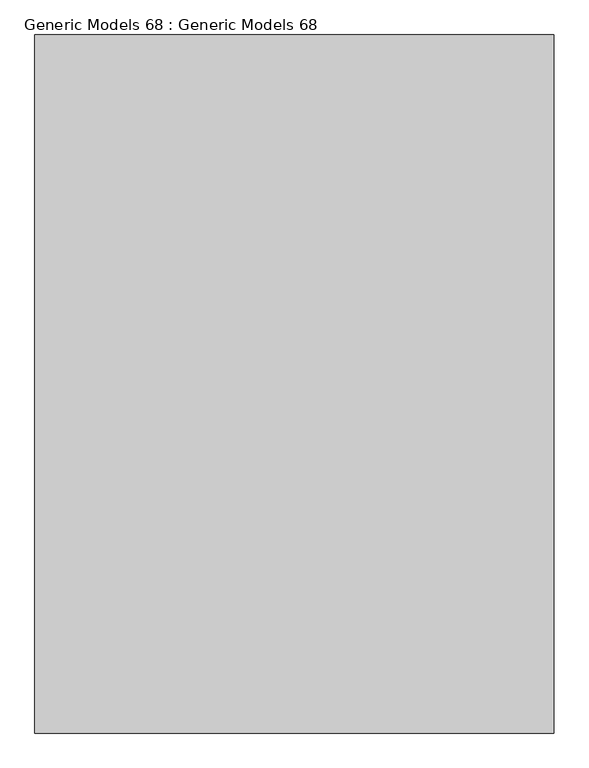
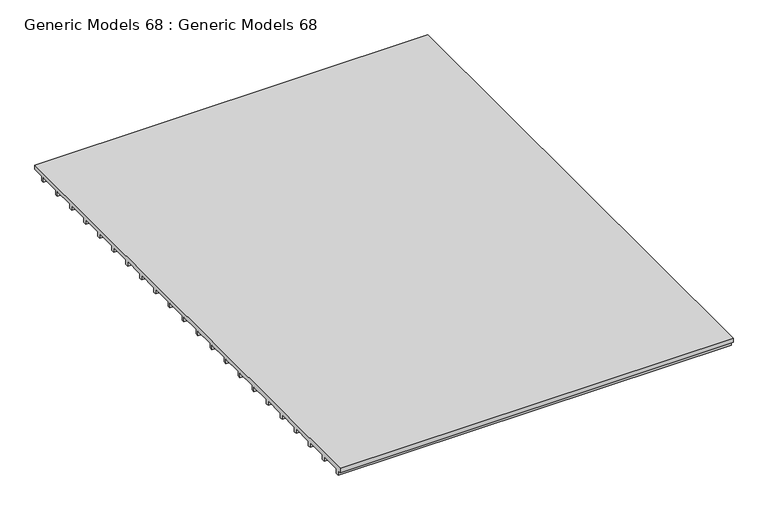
"""IFC4 building model written with IfcOpenShell, lengths in millimetres: proxy geometry, Generic Models 68 : Generic Models 68."""

from ifc_helpers import new_model, si_unit, frame, origin, place, context, project, spatial, polyline, outline, extrude, source, transform, mapped, element, save


def generic_models_68_generic_models_68_cb7e43ab(model_context):
    return source(origin(), model_context, "Body", "SweptSolid", [
        extrude(outline(polyline([(36355.969902, 48170.0), (36355.969902, 47960.8842923), (35815.9656332, 47960.8842923), (35815.9656332, 47740.8842923), (35675.9656332, 47740.8842923), (35675.9656332, 47960.8842923), (34695.9656332, 47960.8842923), (34695.9656332, 47740.8842923), (34555.9656332, 47740.8842923), (34555.9656332, 47960.8842923), (33575.9656332, 47960.8842923), (33575.9656332, 47740.8842923), (33435.9656332, 47740.8842923), (33435.9656332, 47960.8842923), (32455.9656332, 47960.8842923), (32455.9656332, 47740.8842923), (32315.9656332, 47740.8842923), (32315.9656332, 47960.8842923), (31335.9656332, 47960.8842923), (31335.9656332, 47740.8842923), (31195.9656332, 47740.8842923), (31195.9656332, 47960.8842923), (30215.9656332, 47960.8842923), (30215.9656332, 47740.8842923), (30075.9656332, 47740.8842923), (30075.9656332, 47960.8842923), (29095.9656332, 47960.8842923), (29095.9656332, 47740.8842923), (28955.9656332, 47740.8842923), (28955.9656332, 47960.8842923), (27975.9656332, 47960.8842923), (27975.9656332, 47740.8842923), (27835.9656332, 47740.8842923), (27835.9656332, 47960.8842923), (26855.9656332, 47960.8842923), (26855.9656332, 47740.8842923), (26715.9656332, 47740.8842923), (26715.9656332, 47960.8842923), (25735.9656332, 47960.8842923), (25735.9656332, 47740.8842923), (25595.9656332, 47740.8842923), (25595.9656332, 47960.8842923), (24615.9656332, 47960.8842923), (24615.9656332, 47740.8842923), (24475.9656332, 47740.8842923), (24475.9656332, 47960.8842923), (23495.9656332, 47960.8842923), (23495.9656332, 47740.8842923), (23355.9656332, 47740.8842923), (23355.9656332, 47960.8842923), (22375.9656332, 47960.8842923), (22375.9656332, 47740.8842923), (22235.9656332, 47740.8842923), (22235.9656332, 47960.8842923), (21255.9656332, 47960.8842923), (21255.9656332, 47740.8842923), (21115.9656332, 47740.8842923), (21115.9656332, 47960.8842923), (20135.9656332, 47960.8842923), (20135.9656332, 47740.8842923), (19995.9656332, 47740.8842923), (19995.9656332, 47960.8842923), (19015.9656332, 47960.8842923), (19015.9656332, 47740.8842923), (18875.9656332, 47740.8842923), (18875.9656332, 47960.8842923), (17895.9656332, 47960.8842923), (17895.9656332, 47740.8842923), (17755.9656332, 47740.8842923), (17755.9656332, 47960.8842923), (16775.9656332, 47960.8842923), (16775.9656332, 47740.8842923), (16635.9656332, 47740.8842923), (16635.9656332, 47960.8842923), (15655.9656332, 47960.8842923), (15655.9656332, 47740.8842923), (15515.9656332, 47740.8842923), (15515.9656332, 47960.8842923), (14535.9656332, 47960.8842923), (14535.9656332, 47740.8842923), (14395.9656332, 47740.8842923), (14395.9656332, 47960.8842923), (13415.9656332, 47960.8842923), (13415.9656332, 47740.8842923), (13275.9656332, 47740.8842923), (13275.9656332, 47960.8842923), (12295.9656332, 47960.8842923), (12295.9656332, 47740.8842923), (12155.9656332, 47740.8842923), (12155.9656332, 47960.8842923), (12008.2777512, 47960.8842923), (12008.2777512, 48170.0), (36355.969902, 48170.0)])), frame((-135247.9372768, 0.0, 0.0), z_axis=(1.0, 0.0, 0.0), x_axis=(0.0, 1.0, 0.0)), (0.0, 0.0, 1.0), 18105.9721931),
    ])


if __name__ == "__main__":
    model = new_model("IFC4")
    model_context = context("Model", 3, world=origin())
    ifc_project = project(units=[si_unit("LENGTHUNIT", "METRE", prefix="MILLI")], contexts=[model_context])
    site = spatial("IfcSite", under=ifc_project)
    building = spatial("IfcBuilding", under=site)
    placement = place(None, origin())
    generic_models_68_generic_models_68_shape = generic_models_68_generic_models_68_cb7e43ab(model_context)
    element("IfcBuildingElementProxy", 1, Name="Generic Models 68 : Generic Models 68", ObjectType="Generic Models 68 : Generic Models 68", at=placement, inside=building, context=model_context, shape_type="MappedRepresentation", body=[
        mapped(generic_models_68_generic_models_68_shape, transform((0.0, 0.0, 0.0), x_axis=(1.0, 0.0, 0.0), y_axis=(0.0, 1.0, 0.0), z_axis=(0.0, 0.0, 1.0))),
    ])
    save(model, "model.ifc")
